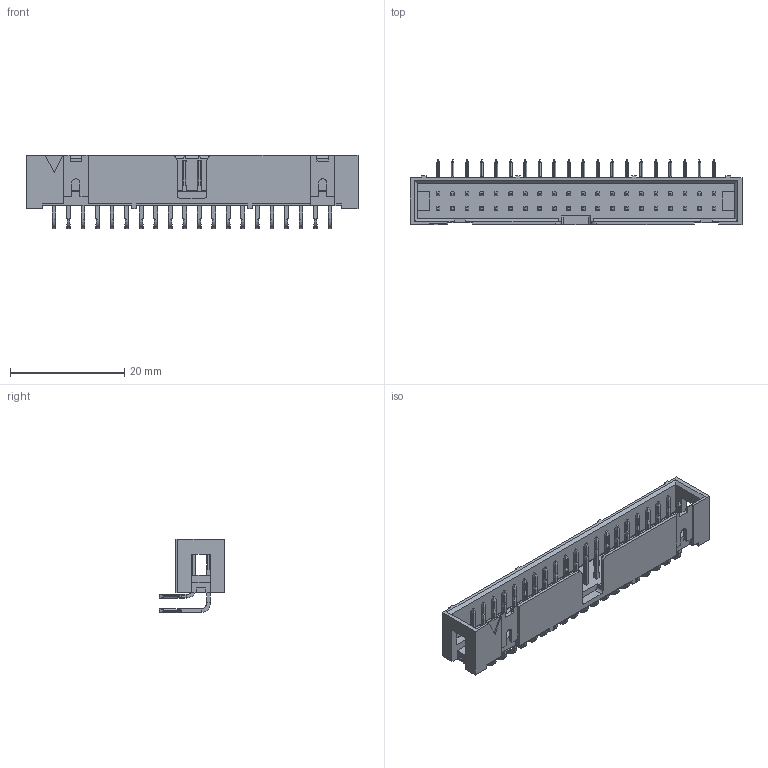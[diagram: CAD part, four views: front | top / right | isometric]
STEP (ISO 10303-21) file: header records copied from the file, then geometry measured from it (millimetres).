
FILE_DESCRIPTION (( 'STEP AP203' ), '1' );
FILE_NAME ('HU5-400PNA-R53T仩仩仩-FA.STEP', '2022-07-01T04:14:18', ( '' ), ( '' ), 'SwSTEP 2.0', 'SolidWorks 2018', '' );
FILE_SCHEMA (( 'CONFIG_CONTROL_DESIGN' ));
Length unit declared in the file: millimetre
Products named in the file (1): HU5-400PNA-R53T仩仩仩-FA
Bounding box: 58.07 x 11.4 x 12.81 mm (x, y, z)
Volume: 2073 mm3; surface area: 4232.6 mm2
Topology: 1 solids, 1 shells, 1937 faces, 5501 edges, 3638 vertices
Faces by surface type: plane 1491, cylinder 446
Entity records: 63136 total; most frequent: CARTESIAN_POINT 14443, ORIENTED_EDGE 11002, DIRECTION 9067, EDGE_CURVE 5501, LINE 4207, VECTOR 4207, VERTEX_POINT 3638, AXIS2_PLACEMENT_3D 2430
